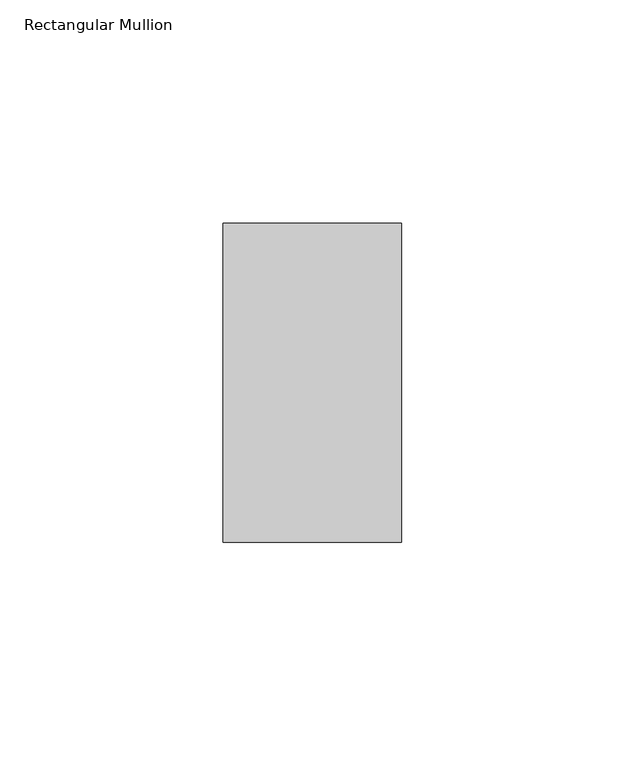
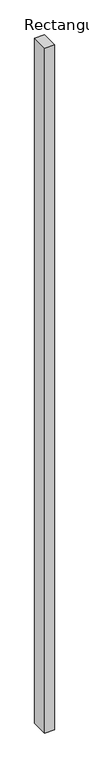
"""IFC4 building model written with IfcOpenShell, lengths in millimetres: member geometry, Rectangular Mullion : RSen_21_CWM_support profile - 40x70-double - right_gen_duco projects."""

from ifc_helpers import new_model, si_unit, frame, origin, place, context, project, spatial, polyline, outline, extrude, source, transform, mapped, element, save


def rectangular_mullion_b9a1a312(model_context):
    return source(origin(), model_context, "Body", "SweptSolid", [
        extrude(outline(polyline([(-90.0, 0.0), (-50.0, 0.0), (-50.0, -71.5), (-90.0, -71.5), (-90.0, 0.0)])), frame((0.0, 0.0, -3000.0), z_axis=(0.0, 0.0, 1.0), x_axis=(1.0, 0.0, 0.0)), (0.0, 0.0, 1.0), 3000.0),
    ])


if __name__ == "__main__":
    model = new_model("IFC4")
    model_context = context("Model", 3, world=origin())
    ifc_project = project(units=[si_unit("LENGTHUNIT", "METRE", prefix="MILLI")], contexts=[model_context])
    site = spatial("IfcSite", under=ifc_project)
    building = spatial("IfcBuilding", under=site)
    placement = place(None, origin())
    rectangular_mullion_shape = rectangular_mullion_b9a1a312(model_context)
    element("IfcMember", 1, ObjectType="Rectangular Mullion : RSen_21_CWM_support profile - 40x70-double - right_gen_duco projects", at=placement, inside=building, context=model_context, shape_type="MappedRepresentation", body=[
        mapped(rectangular_mullion_shape, transform((0.0, 0.0, 0.0), x_axis=(1.0, 0.0, 0.0), y_axis=(0.0, 1.0, 0.0), z_axis=(0.0, 0.0, 1.0))),
    ])
    save(model, "model.ifc")
